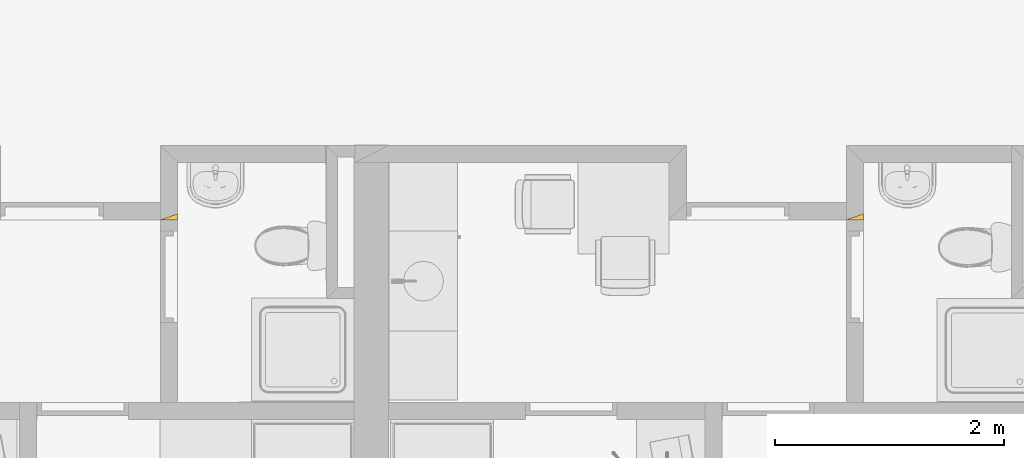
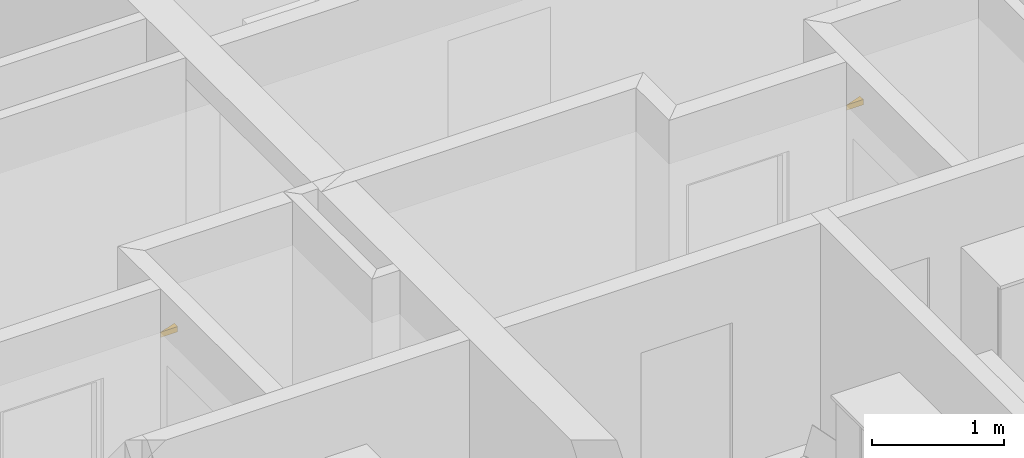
# One storey, part 44 of 172: 2 coverings.
"""IFC2X3 building model written with IfcOpenShell, lengths in millimetres."""

from ifc_helpers import new_model, entity, si_unit, converted_unit, money_unit, direction, frame, origin_with_axes, place, context, subcontext, project, spatial, faceted_brep, material, type_object, element, save


model = new_model("IFC2X3")

# Units and contexts
model_context = context("Model", 3, precision=1e-05, world=origin_with_axes(), true_north=direction((0.0, 1.0)))
body_context = subcontext(model_context, "Body", "Model", "MODEL_VIEW")
ifc_project = project(units=[si_unit("LENGTHUNIT", "METRE", prefix="MILLI"), si_unit("AREAUNIT", "SQUARE_METRE"), si_unit("VOLUMEUNIT", "CUBIC_METRE"), converted_unit("PLANEANGLEUNIT", "DEGREE", entity("IfcPlaneAngleMeasure", 0.0174532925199), si_unit("PLANEANGLEUNIT", "RADIAN"), dimensions=[0, 0, 0, 0, 0, 0, 0]), si_unit("SOLIDANGLEUNIT", "STERADIAN"), money_unit("USD"), converted_unit("TIMEUNIT", "Year", entity("IfcTimeMeasure", 31556926.0), si_unit("TIMEUNIT", "SECOND"), dimensions=[0, 0, 0, 0, 0, 0, 0]), si_unit("MASSUNIT", "GRAM"), si_unit("THERMODYNAMICTEMPERATUREUNIT", "DEGREE_CELSIUS"), si_unit("LUMINOUSINTENSITYUNIT", "LUMEN")], contexts=[model_context])

# Site, building, storey
site_placement = place(None, origin_with_axes())
site = spatial("IfcSite", under=ifc_project, at=site_placement, Name="Site", CompositionType="ELEMENT")
building_placement = place(site_placement, origin_with_axes())
building = spatial("IfcBuilding", under=site, at=building_placement, Name="Building", CompositionType="ELEMENT")
storey_placement = place(building_placement, frame((0.0, 0.0, 3200.0), z_axis=(0.0, 0.0, 1.0), x_axis=(1.0, 0.0, 0.0)))
storey = spatial("IfcBuildingStorey", under=building, at=storey_placement, Name="3KORRUS", CompositionType="ELEMENT", Elevation=3200.0)

# Coverings
ifc_material = material(Name="UmbKipsplaat")
covering_type = type_object("IfcCoveringType", Name="UmbKipsplaat 50", PredefinedType="NOTDEFINED")
for number, where, z_axis, x_axis, name in (
    (1, (-43834.2016804, -13637.5485707, 2350.0), (0.0, 0.0, 1.0), (1.0, 0.0, 0.0), "RL7"),
    (2, (-37834.2016804, -13637.5485729, 2350.0), (0.0, 0.0, 1.0), (1.0, 0.0, 0.0), "RL1"),
):
    element("IfcCovering", number, at=place(storey_placement, frame(where, z_axis=z_axis, x_axis=x_axis)), inside=storey, type_object=covering_type, material=ifc_material, Name=name, ObjectType="kipsplaat", PredefinedType="CEILING", context=body_context, shape_type="Brep", body=[
        faceted_brep([(0.0, 0.0, -50.0), (-150.0, -51.904, -50.0), (-150.0, -51.904, 0.0), (0.0, 0.0, 0.0), (0.0, -51.904, -50.0), (0.0, -51.904, 0.0)], [[[0, 1, 2, 3]], [[0, 4, 1]], [[1, 4, 5, 2]], [[3, 2, 5]], [[4, 0, 3, 5]]]),
    ])

save(model, "model.ifc")
